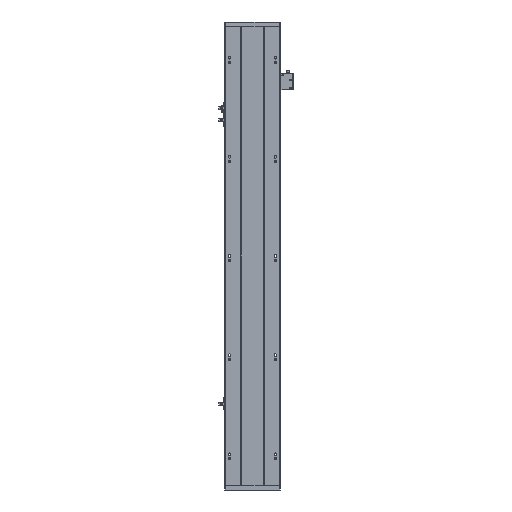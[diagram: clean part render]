
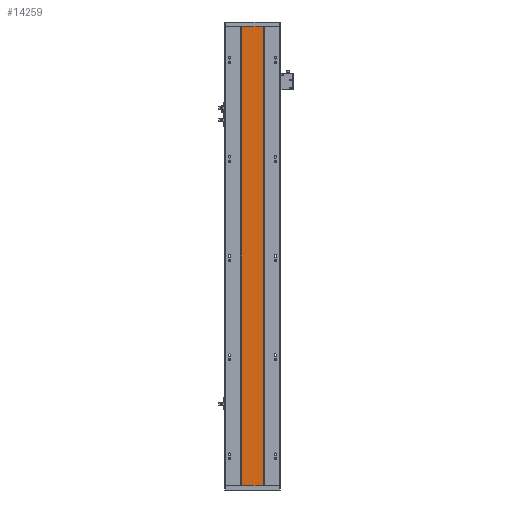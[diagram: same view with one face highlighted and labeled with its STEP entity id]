
A CAD part, front view. The second image highlights one B-rep face of the part: STEP entity #14259.
In plain terms, the highlighted planar face has unit normal (0, -1, 0).
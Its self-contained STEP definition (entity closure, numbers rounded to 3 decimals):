
#604 = AXIS2_PLACEMENT_3D ( 'NONE', #4077, #12146, #14080 ) ;
#1613 = DIRECTION ( 'NONE',  ( 1., 0., 0. ) ) ;
#4077 = CARTESIAN_POINT ( 'NONE',  ( 0., 115.96, 1000. ) ) ;
#4281 = DIRECTION ( 'NONE',  ( 0., 0., -1. ) ) ;
#4843 = CARTESIAN_POINT ( 'NONE',  ( 183.063, 115.96, 1000. ) ) ;
#5410 = LINE ( 'NONE', #12149, #9480 ) ;
#5664 = VECTOR ( 'NONE', #4281, 1000. ) ;
#6237 = DIRECTION ( 'NONE',  ( 1., 0., 0. ) ) ;
#6356 = EDGE_CURVE ( 'NONE', #13939, #14934, #8004, .T. ) ;
#7318 = CARTESIAN_POINT ( 'NONE',  ( 133.07, 115.96, 1000. ) ) ;
#8004 = LINE ( 'NONE', #18203, #24164 ) ;
#9480 = VECTOR ( 'NONE', #15810, 1000. ) ;
#9605 = EDGE_CURVE ( 'NONE', #13939, #21411, #13816, .T. ) ;
#10366 = ORIENTED_EDGE ( 'NONE', *, *, #20136, .F. ) ;
#10414 = FACE_OUTER_BOUND ( 'NONE', #22321, .T. ) ;
#10489 = LINE ( 'NONE', #11706, #23243 ) ;
#10692 = CARTESIAN_POINT ( 'NONE',  ( 133.07, 115.96, 0. ) ) ;
#11706 = CARTESIAN_POINT ( 'NONE',  ( 0., 115.96, 0. ) ) ;
#12146 = DIRECTION ( 'NONE',  ( 0., 1., 0. ) ) ;
#12149 = CARTESIAN_POINT ( 'NONE',  ( 183.063, 115.96, 1000. ) ) ;
#13816 = LINE ( 'NONE', #20515, #5664 ) ;
#13939 = VERTEX_POINT ( 'NONE', #7318 ) ;
#14080 = DIRECTION ( 'NONE',  ( -1., 0., 0. ) ) ;
#14259 = ADVANCED_FACE ( 'NONE', ( #10414 ), #19910, .F. ) ;
#14934 = VERTEX_POINT ( 'NONE', #4843 ) ;
#14964 = CARTESIAN_POINT ( 'NONE',  ( 183.063, 115.96, 0. ) ) ;
#15142 = ORIENTED_EDGE ( 'NONE', *, *, #25220, .T. ) ;
#15810 = DIRECTION ( 'NONE',  ( 0., 0., -1. ) ) ;
#15884 = ORIENTED_EDGE ( 'NONE', *, *, #6356, .F. ) ;
#18203 = CARTESIAN_POINT ( 'NONE',  ( 0., 115.96, 1000. ) ) ;
#18921 = VERTEX_POINT ( 'NONE', #14964 ) ;
#19297 = ORIENTED_EDGE ( 'NONE', *, *, #9605, .T. ) ;
#19910 = PLANE ( 'NONE',  #604 ) ;
#20136 = EDGE_CURVE ( 'NONE', #14934, #18921, #5410, .T. ) ;
#20515 = CARTESIAN_POINT ( 'NONE',  ( 133.07, 115.96, 1000. ) ) ;
#21411 = VERTEX_POINT ( 'NONE', #10692 ) ;
#22321 = EDGE_LOOP ( 'NONE', ( #15142, #10366, #15884, #19297 ) ) ;
#23243 = VECTOR ( 'NONE', #1613, 1000. ) ;
#24164 = VECTOR ( 'NONE', #6237, 1000. ) ;
#25220 = EDGE_CURVE ( 'NONE', #21411, #18921, #10489, .T. ) ;
